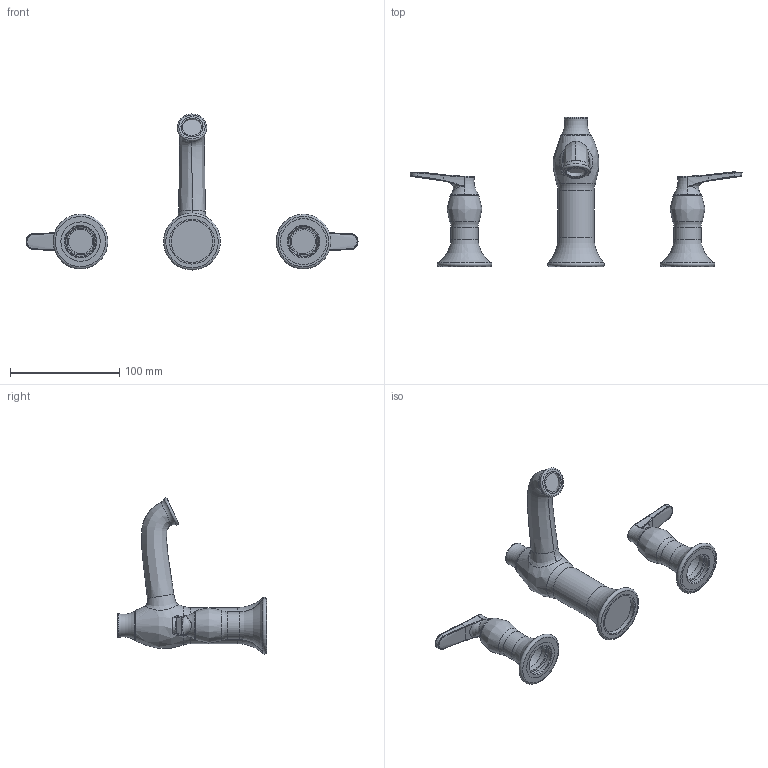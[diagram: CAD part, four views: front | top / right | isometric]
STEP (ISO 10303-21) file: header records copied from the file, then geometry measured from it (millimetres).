
FILE_DESCRIPTION(/* description */ (''),/* implementation_level */ '2;1');
FILE_NAME(/* name */ 'c:\worker\convert-fusion-r09\tmp\job-1\46\output\files\28e803b6-e3ac-414a-875b-e454cfa6c930\5cfb271e-00ed-4623-8015-45dc5889ad65.stp',/* time_stamp */ '2019-12-16T13:04:58+00:00',/* author */ (''),/* organization */ (''),/* preprocessor_version */ 'ST-DEVELOPER v18',/* originating_system */ 'Autodesk Translation Framework v8.12.0.6',/* authorisation */ '');
FILE_SCHEMA (('AUTOMOTIVE_DESIGN { 1 0 10303 214 3 1 1 }'));
Length unit declared in the file: millimetre
Products named in the file (2): !AD5114; LOGO NOWE v1
Assembly tree (1 placements, depth 2):
  !AD5114
    LOGO NOWE v1
Bounding box: 303.74 x 136.52 x 142.74 mm (x, y, z)
Volume: 265538.8 mm3; surface area: 56887.7 mm2
Topology: 17 solids, 17 shells, 341 faces, 1035 edges, 723 vertices
Faces by surface type: bspline 159, plane 121, cylinder 30, torus 27, cone 4
Full cylindrical faces by diameter (mm): 17.5 x1, 20 x1, 20.3 x1, 21.98 x1, 22 x1, 23 x1, 25 x3, 27 x2, 28.5 x2, 30.5 x2, 33 x1, 36 x2, 38.3 x1, 41.98 x1, 42 x1
Entity records: 20126 total; most frequent: CARTESIAN_POINT 11976, ORIENTED_EDGE 2046, DIRECTION 1311, EDGE_CURVE 1023, VERTEX_POINT 723, AXIS2_PLACEMENT_3D 477, EDGE_LOOP 360, LINE 357
